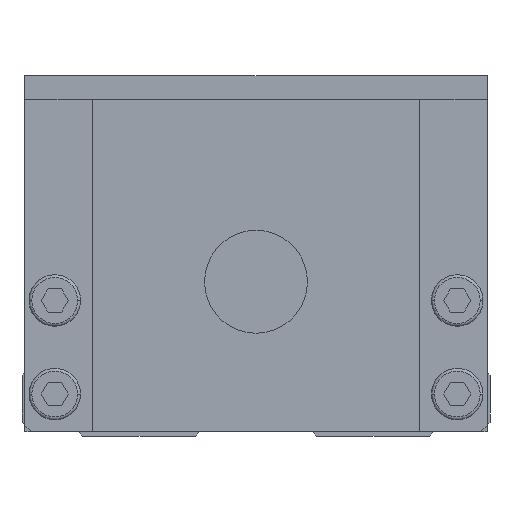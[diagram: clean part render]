
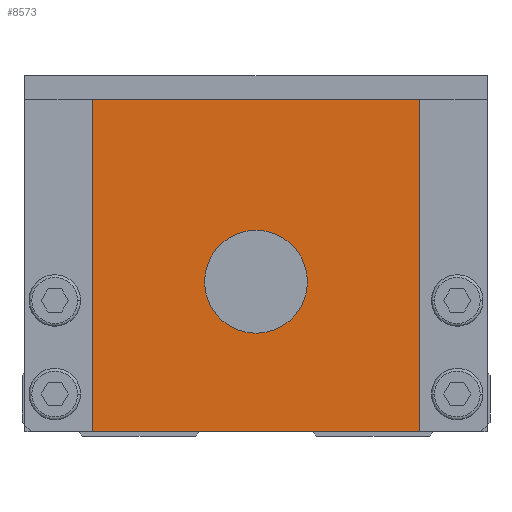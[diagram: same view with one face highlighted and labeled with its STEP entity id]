
A CAD part, front view. The second image highlights one B-rep face of the part: STEP entity #8573.
In plain terms, the highlighted planar face has unit normal (0, -1, 0).
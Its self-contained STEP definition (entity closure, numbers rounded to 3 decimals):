
#5401=VERTEX_POINT('',#15298);
#5425=EDGE_CURVE('',#14483,#7013,#15323,.T.);
#5643=VERTEX_POINT('',#15567);
#6441=EDGE_CURVE('',#5643,#11397,#16466,.T.);
#7013=VERTEX_POINT('',#17118);
#8573=ADVANCED_FACE('',(#18832,#18833),#18834,.F.);
#9627=EDGE_CURVE('',#10077,#5401,#19978,.T.);
#10077=VERTEX_POINT('',#20479);
#11397=VERTEX_POINT('',#21953);
#11691=EDGE_CURVE('',#5401,#7013,#22293,.T.);
#13985=EDGE_CURVE('',#11397,#5643,#24813,.T.);
#14483=VERTEX_POINT('',#25368);
#14535=EDGE_CURVE('',#14483,#10077,#25426,.T.);
#15298=CARTESIAN_POINT('',(17.5,0.0,0.5));
#15323=LINE('',#26446,#26447);
#15567=CARTESIAN_POINT('',(-5.5,0.0,16.5));
#16466=CIRCLE('',#28213,5.5);
#17118=CARTESIAN_POINT('',(-17.5,0.0,0.5));
#18832=FACE_BOUND('',#31541,.T.);
#18833=FACE_OUTER_BOUND('',#31542,.T.);
#18834=PLANE('',#31543);
#19978=LINE('',#33238,#33239);
#20479=CARTESIAN_POINT('',(17.5,0.0,36.0));
#21953=CARTESIAN_POINT('',(5.5,0.0,16.5));
#22293=LINE('',#36553,#36554);
#24813=CIRCLE('',#40295,5.5);
#25368=CARTESIAN_POINT('',(-17.5,0.0,36.0));
#25426=LINE('',#41232,#41233);
#26446=CARTESIAN_POINT('',(-17.5,0.0,18.25));
#26447=VECTOR('',#42220,1.0);
#28213=AXIS2_PLACEMENT_3D('',#43610,#43611,#43612);
#31541=EDGE_LOOP('',(#46417,#46418));
#31542=EDGE_LOOP('',(#46419,#46420,#46421,#46422));
#31543=AXIS2_PLACEMENT_3D('',#46423,#46424,#46425);
#33238=CARTESIAN_POINT('',(17.5,0.0,18.25));
#33239=VECTOR('',#47572,1.0);
#36553=CARTESIAN_POINT('',(0.0,0.0,0.5));
#36554=VECTOR('',#50349,1.0);
#40295=AXIS2_PLACEMENT_3D('',#53050,#53051,#53052);
#41232=CARTESIAN_POINT('',(0.0,0.0,36.0));
#41233=VECTOR('',#53767,1.0);
#42220=DIRECTION('',(0.0,0.0,-1.0));
#43610=CARTESIAN_POINT('',(0.0,0.0,16.5));
#43611=DIRECTION('',(-0.0,1.0,0.0));
#43612=DIRECTION('',(1.0,0.0,0.0));
#46417=ORIENTED_EDGE('',*,*,#13985,.T.);
#46418=ORIENTED_EDGE('',*,*,#6441,.T.);
#46419=ORIENTED_EDGE('',*,*,#5425,.T.);
#46420=ORIENTED_EDGE('',*,*,#11691,.F.);
#46421=ORIENTED_EDGE('',*,*,#9627,.F.);
#46422=ORIENTED_EDGE('',*,*,#14535,.F.);
#46423=CARTESIAN_POINT('',(0.0,0.0,18.25));
#46424=DIRECTION('',(0.0,1.0,0.0));
#46425=DIRECTION('',(0.0,0.0,1.0));
#47572=DIRECTION('',(0.0,0.0,-1.0));
#50349=DIRECTION('',(-1.0,0.0,0.0));
#53050=CARTESIAN_POINT('',(0.0,0.0,16.5));
#53051=DIRECTION('',(-0.0,1.0,0.0));
#53052=DIRECTION('',(1.0,0.0,0.0));
#53767=DIRECTION('',(1.0,0.0,0.0));
